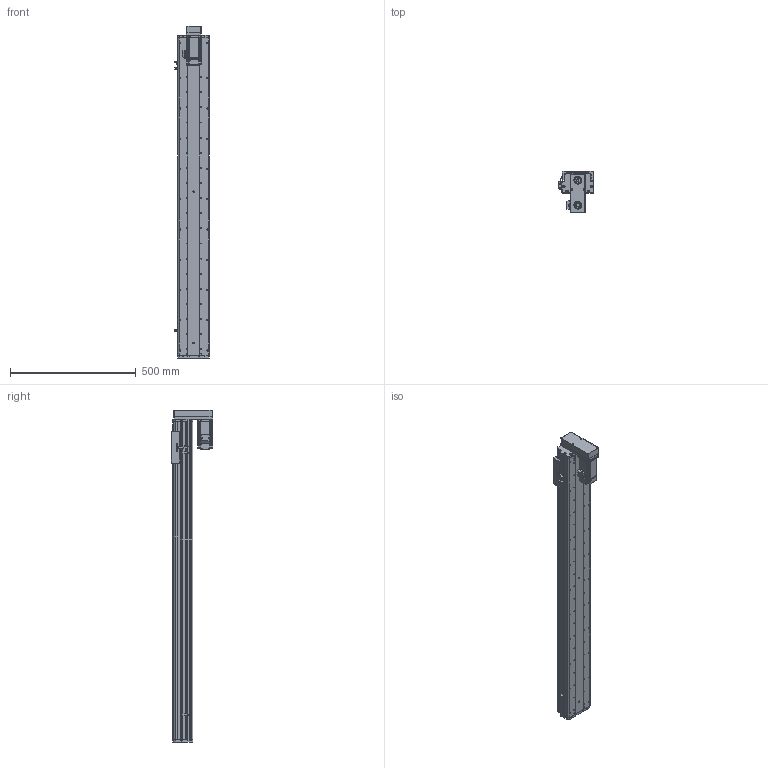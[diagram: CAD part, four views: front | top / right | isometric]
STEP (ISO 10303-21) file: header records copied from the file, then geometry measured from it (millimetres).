
FILE_DESCRIPTION (( 'STEP AP214' ), '1' );
FILE_NAME ('KSD125S-S1050-MD-CM.STEP', '2017-10-21T08:17:32', ( '微软用户' ), ( '微软中国' ), 'SwSTEP 2.0', 'SolidWorks 2014', '' );
FILE_SCHEMA (( 'AUTOMOTIVE_DESIGN' ));
Length unit declared in the file: millimetre
Products named in the file (16): ヶ傷啣-125遵耀郪; KSD125-賑雄釱1; 125-帣傷啣1; KSD125S-S1050-MD-CM; 125宽马达安装板连板上下折丝杆同步带; 125遵悵誘欶奻狟殏; HTPA30S3M150_A_H6_a佪裝蚚; HTPA30S3M150_A_H6_a萇儂蚚; KSD125S-1050俴最佪裝滅鳥裔; KSD125S-1050俴最佪裝菁啣; MHMD042G1CA_2_03; 拸萇儂釱滅袉菜; 拸萇儂釱滅袉菜-1; 覜茼え68遵圉猾敕; U倰嫖萇假蚾璃; U倰嫖萇EEㄜSX672
Assembly tree (19 placements, depth 2):
  KSD125S-S1050-MD-CM
    125-帣傷啣1
    KSD125-賑雄釱1
    ヶ傷啣-125遵耀郪
    U倰嫖萇EEㄜSX672  x3
    U倰嫖萇假蚾璃  x3
    覜茼え68遵圉猾敕
    拸萇儂釱滅袉菜-1
    拸萇儂釱滅袉菜
    MHMD042G1CA_2_03
    KSD125S-1050俴最佪裝菁啣
    KSD125S-1050俴最佪裝滅鳥裔
    HTPA30S3M150_A_H6_a萇儂蚚
    HTPA30S3M150_A_H6_a佪裝蚚
    125遵悵誘欶奻狟殏
    125宽马达安装板连板上下折丝杆同步带
Bounding box: 138.7 x 165 x 1317.5 mm (x, y, z)
Volume: 4081525 mm3; surface area: 1369488.7 mm2
Topology: 18 solids, 21 shells, 2273 faces, 6597 edges, 4353 vertices
Faces by surface type: cylinder 1442, plane 690, cone 119, bspline 22
Entity records: 81857 total; most frequent: CARTESIAN_POINT 16327, DIRECTION 12571, ORIENTED_EDGE 11702, EDGE_CURVE 5929, AXIS2_PLACEMENT_3D 4875, VERTEX_POINT 3945, LINE 2821, CIRCLE 2821
